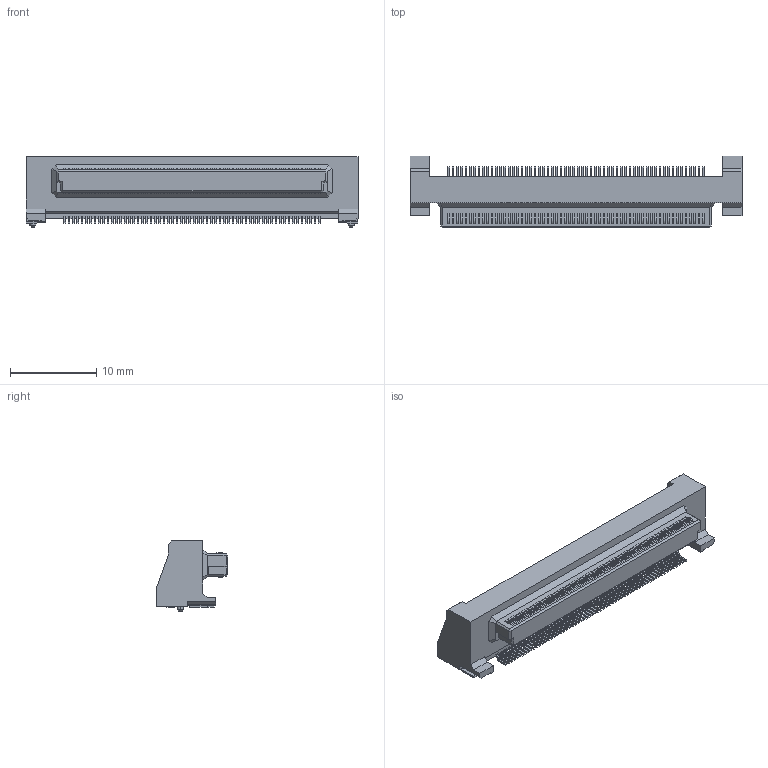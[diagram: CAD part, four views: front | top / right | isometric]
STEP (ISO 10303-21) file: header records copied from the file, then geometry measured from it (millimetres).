
FILE_DESCRIPTION(('Creo Elements/Direct Modeling STEP Export'),'2;1');
FILE_NAME('DY11-120L.stp','2017-11-30T15:51:40',(''),(''),'Creo Elements/Direct Modeling STEP processor for AP214 (Solid Model)','Creo Elements/Direct Modeling 19.0F 14-Feb-2017 (C) Parametric Technology GmbH','');
FILE_SCHEMA(('AUTOMOTIVE_DESIGN { 1 0 10303 214 1 1 1 1 }'));
Products named in the file (2): DY11-120L
Assembly tree (1 placements, depth 2):
  DY11-120L
    DY11-120L
Bounding box: 38.5 x 8.3 x 8.15 mm (x, y, z)
Volume: 1124.1 mm3; surface area: 1338.5 mm2
Topology: 1 solids, 1 shells, 1967 faces, 5378 edges, 3538 vertices
Faces by surface type: plane 1355, cylinder 608, cone 4
Entity records: 60811 total; most frequent: ORIENTED_EDGE 10756, CARTESIAN_POINT 10625, DIRECTION 10146, EDGE_CURVE 5378, VECTOR 4028, LINE 4028, VERTEX_POINT 3538, AXIS2_PLACEMENT_3D 3059
